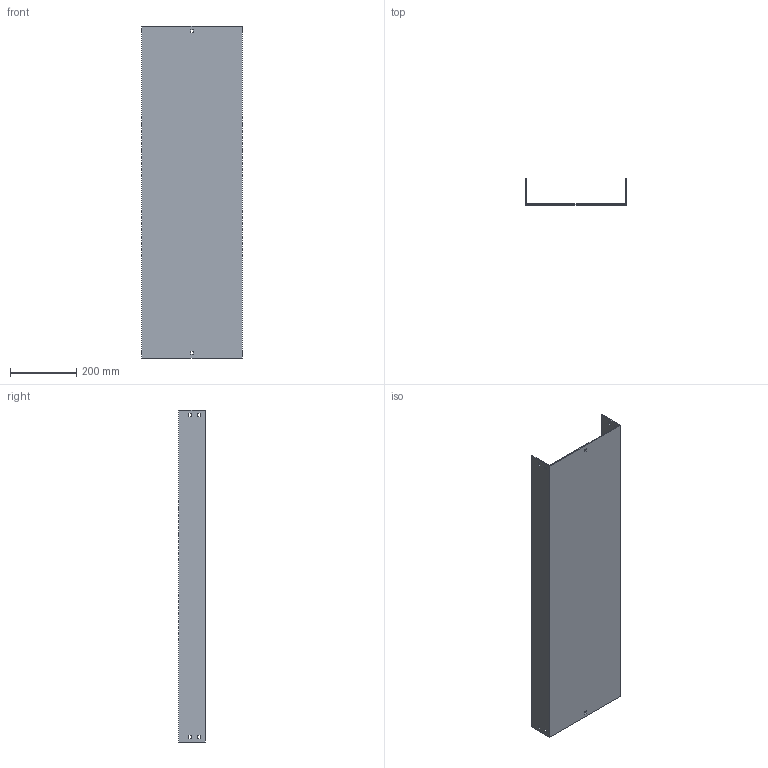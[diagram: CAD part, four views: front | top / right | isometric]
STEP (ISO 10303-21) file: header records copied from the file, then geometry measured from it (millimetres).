
FILE_DESCRIPTION (( 'STEP AP214' ), '1' );
FILE_NAME ('03F1C300.step', '2025-02-21T13:31:23', ( '' ), ( '' ), 'SwSTEP 2.0', 'SolidWorks 2023', '' );
FILE_SCHEMA (( 'AUTOMOTIVE_DESIGN' ));
Length unit declared in the file: millimetre
Products named in the file (1): 03F1C300
Bounding box: 304 x 79 x 1000 mm (x, y, z)
Volume: 1590130.5 mm3; surface area: 920000 mm2
Topology: 1 solids, 1 shells, 50 faces, 144 edges, 96 vertices
Faces by surface type: plane 50
Entity records: 1671 total; most frequent: CARTESIAN_POINT 291, ORIENTED_EDGE 288, DIRECTION 246, VECTOR 144, LINE 144, EDGE_CURVE 144, VERTEX_POINT 96, EDGE_LOOP 70
